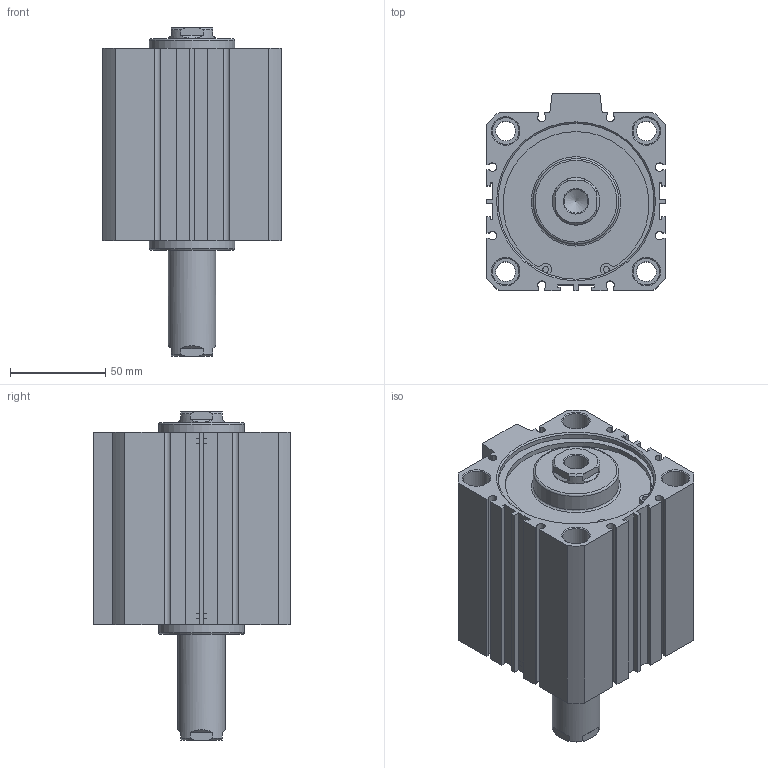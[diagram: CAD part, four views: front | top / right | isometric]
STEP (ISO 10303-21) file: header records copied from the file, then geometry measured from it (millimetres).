
FILE_DESCRIPTION((''),'2;1');
FILE_NAME('I:\3D電子目錄\氣缸\JDD\JDD-S\JDD80-S\JDD80x50-S.stp','2007-02-09T09:01:33',('662F206'),(''),'Autodesk Inventor 10','Autodesk Inventor 10','');
FILE_SCHEMA(('AUTOMOTIVE_DESIGN { 1 0 10303 214 1 1 1 1 }'));
Length unit declared in the file: millimetre
Products named in the file (3): JDD80-S; R 形環 82
Assembly tree (3 placements, depth 2):
  JDD80-S
    JDD80-S
    R 形環 82  x2
Bounding box: 94 x 104 x 172.7 mm (x, y, z)
Volume: 841108.6 mm3; surface area: 105979.8 mm2
Topology: 3 solids, 3 shells, 200 faces, 502 edges, 330 vertices
Faces by surface type: plane 116, cylinder 52, cone 24, bspline 6, torus 2
Full cylindrical faces by diameter (mm): 3.1 x4, 3.5 x2, 10.4 x4, 14 x8, 25 x2, 45 x2, 82 x4, 85.5 x2
Entity records: 5511 total; most frequent: CARTESIAN_POINT 1094, DIRECTION 908, ORIENTED_EDGE 824, EDGE_CURVE 412, AXIS2_PLACEMENT_3D 324, VERTEX_POINT 300, EDGE_LOOP 272, VECTOR 260
